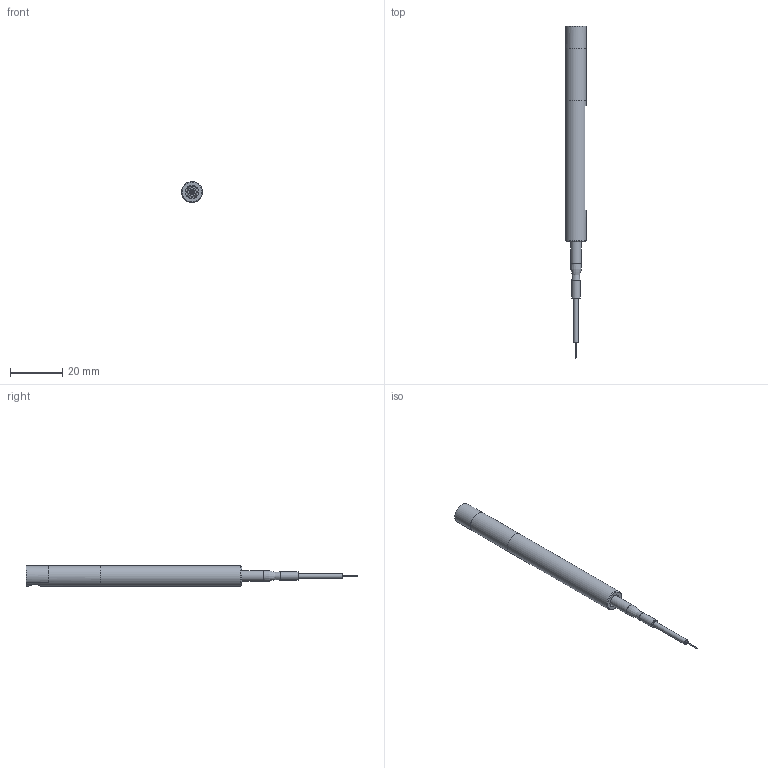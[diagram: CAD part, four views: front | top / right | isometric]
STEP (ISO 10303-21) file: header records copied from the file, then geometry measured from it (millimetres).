
FILE_DESCRIPTION(/* description */ (''),/* implementation_level */ '2;1');
FILE_NAME(/* name */ 'K:\ME\CAD Daten\IFS2403\0\IFS2403_90-10.stp',/* time_stamp */ '2017-10-27T12:00:18+02:00',/* author */ ('sven'),/* organization */ (''),/* preprocessor_version */ 'ST-DEVELOPER v16.13',/* originating_system */ 'Autodesk Inventor 2018',/* authorisation */ '');
FILE_SCHEMA (('CONFIG_CONTROL_DESIGN'));
Length unit declared in the file: millimetre
Products named in the file (10): IFS2403_90-10; 10.00033_Außenrohr_mb10GA8,6; 10.00036_Kappe_MB1,5GA4,9; 10.00039_Prismenhalter_MB10GA8,6; 20.00018_Prisma5mm; 30.00002_Schrumpfschlauch; 40.00006_StdFaser; ferrule; faser; Tubing
Assembly tree (9 placements, depth 3):
  IFS2403_90-10
    10.00033_Außenrohr_mb10GA8,6
    10.00036_Kappe_MB1,5GA4,9
    10.00039_Prismenhalter_MB10GA8,6
    20.00018_Prisma5mm
    30.00002_Schrumpfschlauch
    40.00006_StdFaser
      ferrule
      faser
      Tubing
Bounding box: 8 x 127.05 x 8 mm (x, y, z)
Volume: 2412.7 mm3; surface area: 5294.3 mm2
Topology: 8 solids, 8 shells, 70 faces, 145 edges, 94 vertices
Faces by surface type: plane 45, cylinder 22, bspline 2, cone 1
Full cylindrical faces by diameter (mm): 0.25 x1, 1.39 x1, 1.712 x1, 1.8 x1, 1.9 x1, 2.5 x1, 3.14 x1, 4 x1, 4.9 x1, 5 x1, 6 x1, 6.5 x1, 7.2 x2, 7.9 x1, 8 x2
Entity records: 2418 total; most frequent: CARTESIAN_POINT 571, DIRECTION 353, ORIENTED_EDGE 248, AXIS2_PLACEMENT_3D 145, EDGE_CURVE 124, EDGE_LOOP 101, VERTEX_POINT 91, FACE_OUTER_BOUND 70
